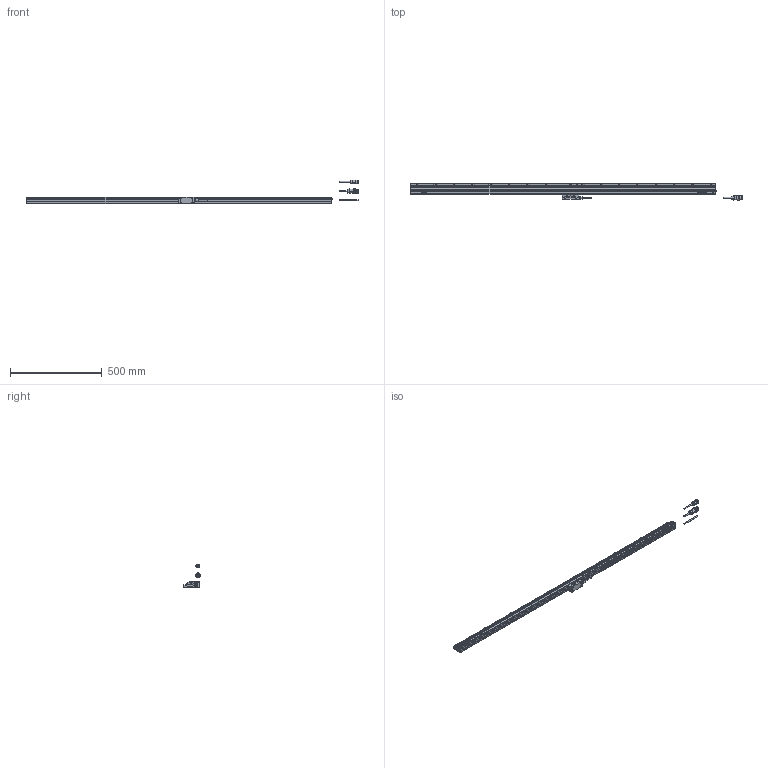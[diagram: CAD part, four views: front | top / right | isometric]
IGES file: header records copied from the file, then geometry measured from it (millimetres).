
Start section: Elysium IGES Interface
Global section: file name: 66H\\Utsu119s\kiyo_cad\data\3D\AT402E\HP掲載用_201708\AT402E-1540.igs; native system: Creo Elements/Direct Modeling 18.1B  29-Sep-2012; preprocessor: Creo Element/Direct IGES_3D V2.2; author: Unknown; organization: Unknown; date: 20180221.131107; units: millimetre
Bounding box: 1809.57 x 90 x 130.25 mm (x, y, z)
Volume: 2778319.5 mm3; surface area: 362408.4 mm2
Topology: 5 solids, 5 shells, 1419 faces, 4188 edges, 2827 vertices
Faces by surface type: bspline 1419
